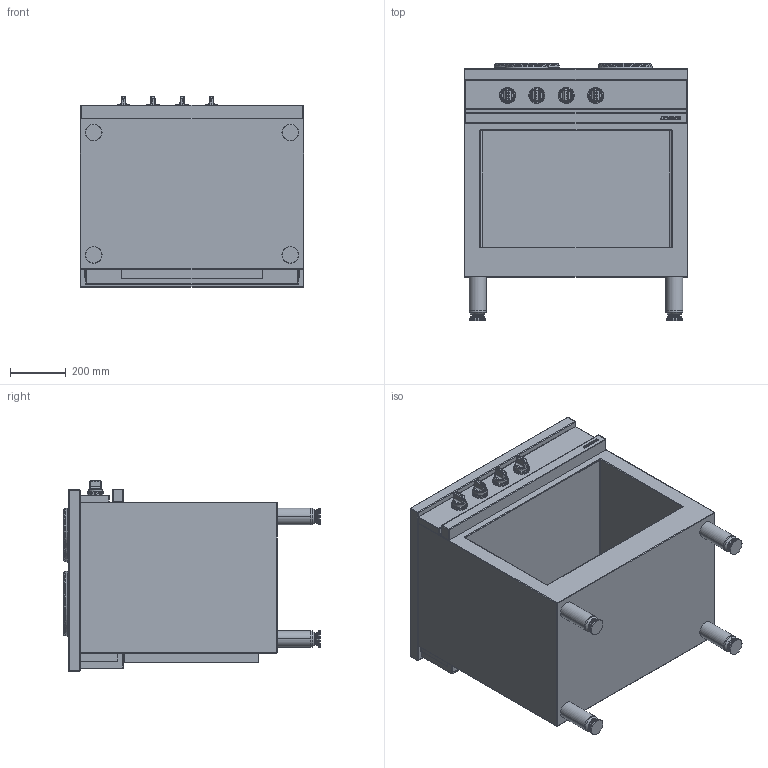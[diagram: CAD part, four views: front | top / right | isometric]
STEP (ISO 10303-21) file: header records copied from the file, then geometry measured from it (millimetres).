
FILE_DESCRIPTION((''),'2;1');
FILE_NAME('CME840E_EXPORT_STEP_ASM','2017-11-22T',('r.avril'),(''),'PRO/ENGINEER BY PARAMETRIC TECHNOLOGY CORPORATION, 2014200','PRO/ENGINEER BY PARAMETRIC TECHNOLOGY CORPORATION, 2014200','');
FILE_SCHEMA(('AP203_CONFIGURATION_CONTROLLED_3D_DESIGN_OF_MECHANICAL_PARTS_AND_ASSEMBLIES_MIM_LF { 1 0 10303 403 2 1 2 }'));
Length unit declared in the file: millimetre
Products named in the file (5): MODULES_AMB_800_EXPORT_STEP; TABLE_800_PLQ_ELEC; TABLE_800_PLQ_ELEC_ASM; MANETTE_AMB_EXPORT_STEP; CME840E_EXPORT_STEP_ASM
Assembly tree (7 placements, depth 3):
  CME840E_EXPORT_STEP_ASM
    MODULES_AMB_800_EXPORT_STEP
    TABLE_800_PLQ_ELEC_ASM
      TABLE_800_PLQ_ELEC
    MANETTE_AMB_EXPORT_STEP  x4
Bounding box: 800 x 918.8 x 682.5 mm (x, y, z)
Volume: 109435696.4 mm3; surface area: 6544709 mm2
Topology: 20 solids, 38 shells, 572 faces, 1879 edges, 1624 vertices
Faces by surface type: plane 171, cylinder 145, torus 88, cone 68, sphere 52, bspline 48
Entity records: 21647 total; most frequent: CARTESIAN_POINT 5666, DIRECTION 2649, ORIENTED_EDGE 2188, EDGE_CURVE 1319, AXIS2_PLACEMENT_3D 988, VERTEX_POINT 955, VECTOR 658, LINE 658
